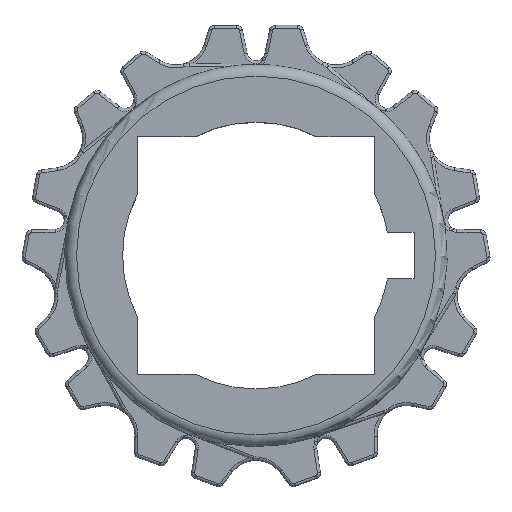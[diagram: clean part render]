
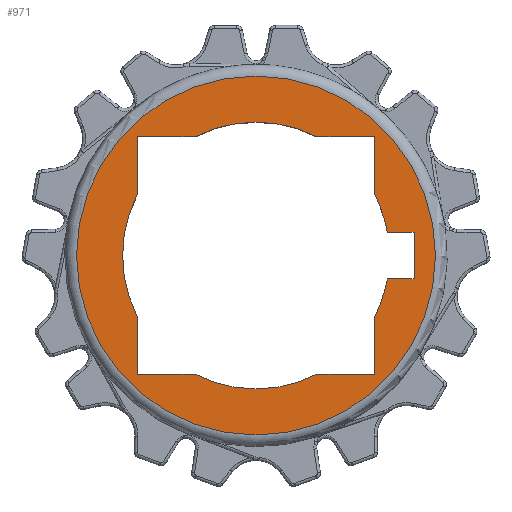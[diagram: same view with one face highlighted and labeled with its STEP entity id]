
A CAD part, top view. The second image highlights one B-rep face of the part: STEP entity #971.
In plain terms, the highlighted planar face has unit normal (0, 0, 1).
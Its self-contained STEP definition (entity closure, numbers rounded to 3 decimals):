
#844=PLANE('',#9204);
#971=ADVANCED_FACE('',(#2949,#2950),#844,.F.);
#1767=LINE('',#13667,#2291);
#1768=LINE('',#13672,#2292);
#1769=LINE('',#13674,#2293);
#1770=LINE('',#13678,#2294);
#1771=LINE('',#13680,#2295);
#1772=LINE('',#13684,#2296);
#1773=LINE('',#13686,#2297);
#1774=LINE('',#13688,#2298);
#1775=LINE('',#13692,#2299);
#1776=LINE('',#13694,#2300);
#1777=LINE('',#13698,#2301);
#2291=VECTOR('',#10413,1.);
#2292=VECTOR('',#10416,1.);
#2293=VECTOR('',#10417,1.);
#2294=VECTOR('',#10420,1.);
#2295=VECTOR('',#10421,1.);
#2296=VECTOR('',#10424,1.);
#2297=VECTOR('',#10425,1.);
#2298=VECTOR('',#10426,1.);
#2299=VECTOR('',#10429,1.);
#2300=VECTOR('',#10430,1.);
#2301=VECTOR('',#10433,1.);
#2949=FACE_BOUND('',#2961,.T.);
#2950=FACE_BOUND('',#2962,.T.);
#2961=EDGE_LOOP('',(#3554));
#2962=EDGE_LOOP('',(#3555,#3556,#3557,#3558,#3559,#3560,#3561,#3562,#3563,
#3564,#3565,#3566,#3567,#3568,#3569,#3570));
#3554=ORIENTED_EDGE('',*,*,#7130,.T.);
#3555=ORIENTED_EDGE('',*,*,#7131,.F.);
#3556=ORIENTED_EDGE('',*,*,#7132,.T.);
#3557=ORIENTED_EDGE('',*,*,#7133,.F.);
#3558=ORIENTED_EDGE('',*,*,#7134,.T.);
#3559=ORIENTED_EDGE('',*,*,#7135,.T.);
#3560=ORIENTED_EDGE('',*,*,#7136,.T.);
#3561=ORIENTED_EDGE('',*,*,#7137,.T.);
#3562=ORIENTED_EDGE('',*,*,#7138,.T.);
#3563=ORIENTED_EDGE('',*,*,#7139,.T.);
#3564=ORIENTED_EDGE('',*,*,#7140,.T.);
#3565=ORIENTED_EDGE('',*,*,#7141,.F.);
#3566=ORIENTED_EDGE('',*,*,#7142,.T.);
#3567=ORIENTED_EDGE('',*,*,#7143,.T.);
#3568=ORIENTED_EDGE('',*,*,#7144,.F.);
#3569=ORIENTED_EDGE('',*,*,#7145,.T.);
#3570=ORIENTED_EDGE('',*,*,#7146,.F.);
#6302=VERTEX_POINT('',#13666);
#6303=VERTEX_POINT('',#13668);
#6304=VERTEX_POINT('',#13669);
#6305=VERTEX_POINT('',#13671);
#6306=VERTEX_POINT('',#13673);
#6307=VERTEX_POINT('',#13675);
#6308=VERTEX_POINT('',#13677);
#6309=VERTEX_POINT('',#13679);
#6310=VERTEX_POINT('',#13681);
#6311=VERTEX_POINT('',#13683);
#6312=VERTEX_POINT('',#13685);
#6313=VERTEX_POINT('',#13687);
#6314=VERTEX_POINT('',#13689);
#6315=VERTEX_POINT('',#13691);
#6316=VERTEX_POINT('',#13693);
#6317=VERTEX_POINT('',#13695);
#6318=VERTEX_POINT('',#13697);
#7130=EDGE_CURVE('',#6302,#6302,#8477,.T.);
#7131=EDGE_CURVE('',#6303,#6304,#1767,.T.);
#7132=EDGE_CURVE('',#6303,#6305,#8478,.T.);
#7133=EDGE_CURVE('',#6306,#6305,#1768,.T.);
#7134=EDGE_CURVE('',#6306,#6307,#1769,.T.);
#7135=EDGE_CURVE('',#6307,#6308,#8479,.T.);
#7136=EDGE_CURVE('',#6308,#6309,#1770,.T.);
#7137=EDGE_CURVE('',#6309,#6310,#1771,.T.);
#7138=EDGE_CURVE('',#6310,#6311,#8480,.T.);
#7139=EDGE_CURVE('',#6311,#6312,#1772,.T.);
#7140=EDGE_CURVE('',#6312,#6313,#1773,.T.);
#7141=EDGE_CURVE('',#6314,#6313,#1774,.T.);
#7142=EDGE_CURVE('',#6314,#6315,#8481,.T.);
#7143=EDGE_CURVE('',#6315,#6316,#1775,.T.);
#7144=EDGE_CURVE('',#6317,#6316,#1776,.T.);
#7145=EDGE_CURVE('',#6317,#6318,#8482,.T.);
#7146=EDGE_CURVE('',#6304,#6318,#1777,.T.);
#8477=CIRCLE('',#9198,30.6);
#8478=CIRCLE('',#9199,22.75);
#8479=CIRCLE('',#9200,22.75);
#8480=CIRCLE('',#9201,22.75);
#8481=CIRCLE('',#9202,22.75);
#8482=CIRCLE('',#9203,22.75);
#9198=AXIS2_PLACEMENT_3D('',#13665,#10411,#10412);
#9199=AXIS2_PLACEMENT_3D('',#13670,#10414,#10415);
#9200=AXIS2_PLACEMENT_3D('',#13676,#10418,#10419);
#9201=AXIS2_PLACEMENT_3D('',#13682,#10422,#10423);
#9202=AXIS2_PLACEMENT_3D('',#13690,#10427,#10428);
#9203=AXIS2_PLACEMENT_3D('',#13696,#10431,#10432);
#9204=AXIS2_PLACEMENT_3D('',#13699,#10434,#10435);
#10411=DIRECTION('',(0.,0.,1.));
#10412=DIRECTION('',(-1.,0.,0.));
#10413=DIRECTION('',(0.,-1.,0.));
#10414=DIRECTION('',(0.,0.,-1.));
#10415=DIRECTION('',(-1.,0.,0.));
#10416=DIRECTION('',(0.,-1.,0.));
#10417=DIRECTION('',(1.,0.,0.));
#10418=DIRECTION('',(0.,0.,-1.));
#10419=DIRECTION('',(-1.,0.,0.));
#10420=DIRECTION('',(1.,0.,0.));
#10421=DIRECTION('',(0.,-1.,0.));
#10422=DIRECTION('',(0.,0.,-1.));
#10423=DIRECTION('',(-1.,0.,0.));
#10424=DIRECTION('',(1.,0.,0.));
#10425=DIRECTION('',(0.,-1.,0.));
#10426=DIRECTION('',(1.,0.,0.));
#10427=DIRECTION('',(0.,0.,-1.));
#10428=DIRECTION('',(-1.,0.,0.));
#10429=DIRECTION('',(0.,-1.,0.));
#10430=DIRECTION('',(1.,0.,0.));
#10431=DIRECTION('',(0.,0.,-1.));
#10432=DIRECTION('',(-1.,0.,0.));
#10433=DIRECTION('',(1.,0.,0.));
#10434=DIRECTION('',(0.,0.,-1.));
#10435=DIRECTION('',(-1.,0.,0.));
#13665=CARTESIAN_POINT('',(3312.632,2389.307,10.7));
#13666=CARTESIAN_POINT('',(3282.032,2389.307,10.7));
#13667=CARTESIAN_POINT('',(3292.382,2389.307,10.7));
#13668=CARTESIAN_POINT('',(3292.382,2378.939,10.7));
#13669=CARTESIAN_POINT('',(3292.382,2369.057,10.7));
#13670=CARTESIAN_POINT('',(3312.632,2389.307,10.7));
#13671=CARTESIAN_POINT('',(3292.382,2399.675,10.7));
#13672=CARTESIAN_POINT('',(3292.382,2389.307,10.7));
#13673=CARTESIAN_POINT('',(3292.382,2409.557,10.7));
#13674=CARTESIAN_POINT('',(3312.632,2409.557,10.7));
#13675=CARTESIAN_POINT('',(3302.263,2409.557,10.7));
#13676=CARTESIAN_POINT('',(3312.632,2389.307,10.7));
#13677=CARTESIAN_POINT('',(3323.,2409.557,10.7));
#13678=CARTESIAN_POINT('',(3312.632,2409.557,10.7));
#13679=CARTESIAN_POINT('',(3332.882,2409.557,10.7));
#13680=CARTESIAN_POINT('',(3332.882,2389.307,10.7));
#13681=CARTESIAN_POINT('',(3332.882,2399.675,10.7));
#13682=CARTESIAN_POINT('',(3312.632,2389.307,10.7));
#13683=CARTESIAN_POINT('',(3335.027,2393.307,10.7));
#13684=CARTESIAN_POINT('',(3312.632,2393.307,10.7));
#13685=CARTESIAN_POINT('',(3339.582,2393.307,10.7));
#13686=CARTESIAN_POINT('',(3339.582,2389.307,10.7));
#13687=CARTESIAN_POINT('',(3339.582,2385.307,10.7));
#13688=CARTESIAN_POINT('',(3312.632,2385.307,10.7));
#13689=CARTESIAN_POINT('',(3335.027,2385.307,10.7));
#13690=CARTESIAN_POINT('',(3312.632,2389.307,10.7));
#13691=CARTESIAN_POINT('',(3332.882,2378.939,10.7));
#13692=CARTESIAN_POINT('',(3332.882,2389.307,10.7));
#13693=CARTESIAN_POINT('',(3332.882,2369.057,10.7));
#13694=CARTESIAN_POINT('',(3312.632,2369.057,10.7));
#13695=CARTESIAN_POINT('',(3323.,2369.057,10.7));
#13696=CARTESIAN_POINT('',(3312.632,2389.307,10.7));
#13697=CARTESIAN_POINT('',(3302.263,2369.057,10.7));
#13698=CARTESIAN_POINT('',(3312.632,2369.057,10.7));
#13699=CARTESIAN_POINT('',(3312.632,2389.307,10.7));
